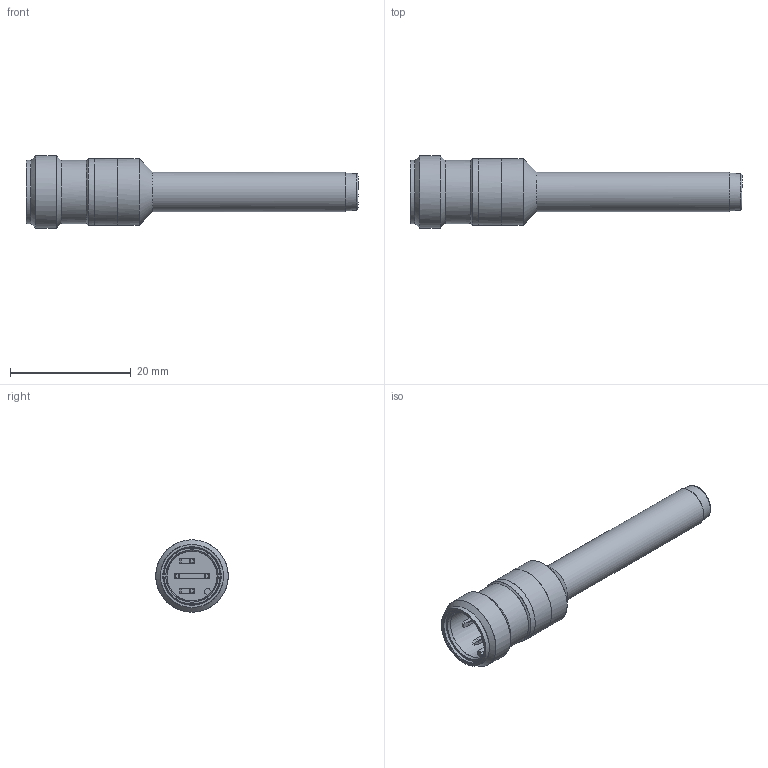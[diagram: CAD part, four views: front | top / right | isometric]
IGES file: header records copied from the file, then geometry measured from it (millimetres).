
Start section: C
Global section: file name: IFBR 06xx3T1_S14L-9.igs; native system: By Siemens PLM Incorporated; preprocessor: XPlus GENERIC/IGES 19.0.9; author: Author; organization: Title; date: 20180123.104211; units: millimetre
Bounding box: 55 x 11.97 x 12 mm (x, y, z)
Surface area: 1963.5 mm2 (no closed solid volume)
Topology: 0 solids, 0 shells, 104 faces, 622 edges, 604 vertices
Faces by surface type: bspline 104
